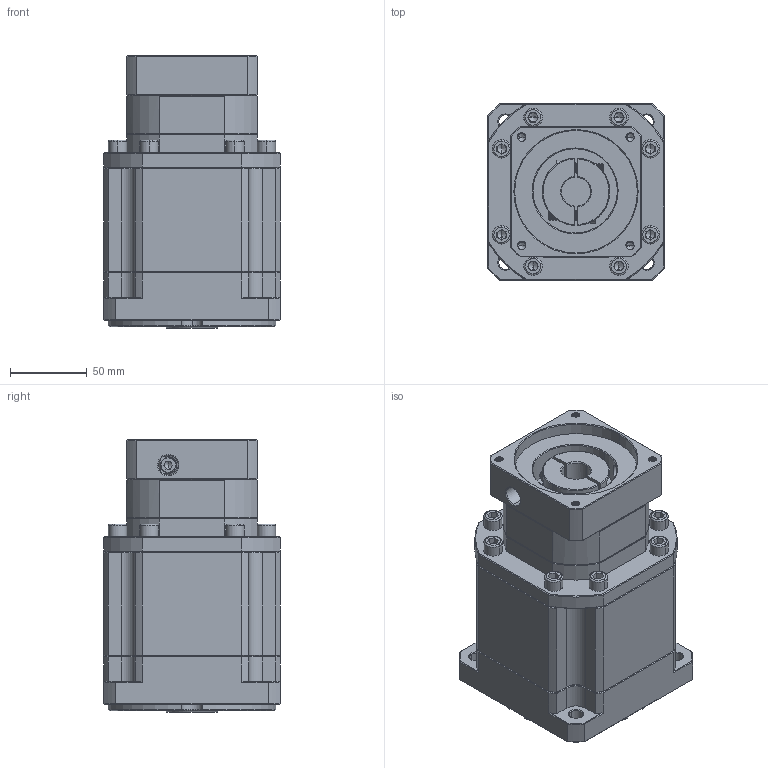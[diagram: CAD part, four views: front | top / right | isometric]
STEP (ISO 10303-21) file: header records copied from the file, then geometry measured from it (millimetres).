
FILE_DESCRIPTION (( 'STEP AP214' ), '1' );
FILE_NAME ('ZB115A-K25-L3-19-80-100-M6.step', '2023-03-03T09:59:30', ( '' ), ( 'Microsoft' ), 'SwSTEP 2.0', 'SolidWorks 2016', '' );
FILE_SCHEMA (( 'AUTOMOTIVE_DESIGN' ));
Length unit declared in the file: millimetre
Products named in the file (1): ZB115A-K25-L3-19-80-100-M6
Bounding box: 115 x 115 x 177.5 mm (x, y, z)
Volume: 1632980.6 mm3; surface area: 143606.2 mm2
Topology: 5 solids, 6 shells, 2081 faces, 5368 edges, 3384 vertices
Faces by surface type: plane 1003, cylinder 393, cone 350, bspline 320, torus 15
Entity records: 107036 total; most frequent: CARTESIAN_POINT 36187, ORIENTED_EDGE 10664, DIRECTION 8794, EDGE_CURVE 5332, VERTEX_POINT 3384, VECTOR 3366, LINE 3366, AXIS2_PLACEMENT_3D 2714
